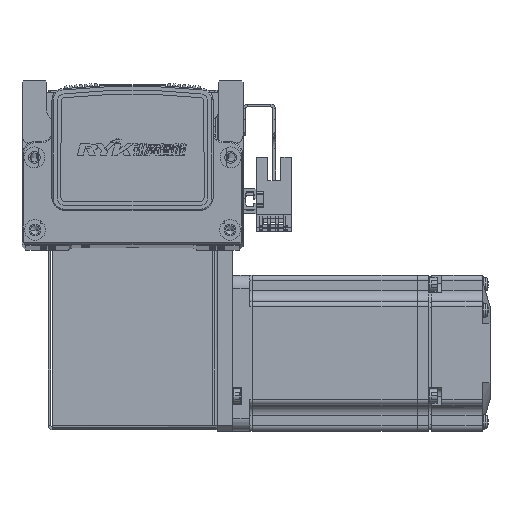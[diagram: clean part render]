
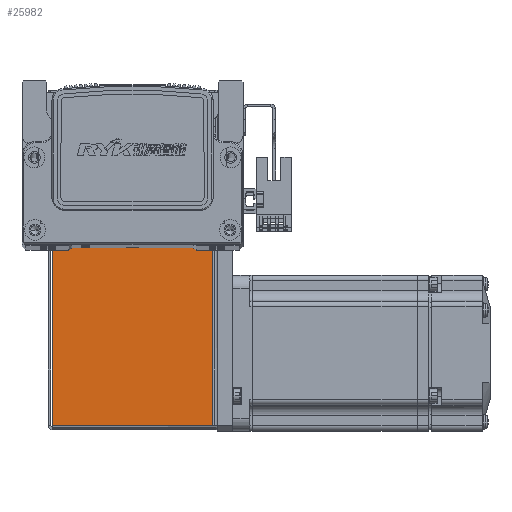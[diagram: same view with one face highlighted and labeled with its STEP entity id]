
A CAD part, top view. The second image highlights one B-rep face of the part: STEP entity #25982.
In plain terms, the highlighted planar face has unit normal (0, 0, 1).
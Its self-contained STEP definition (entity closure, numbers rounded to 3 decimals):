
#10081 = EDGE_LOOP ( 'NONE', ( #17099, #17057, #17058, #17068 ) ) ;
#17057 = ORIENTED_EDGE ( 'NONE', *, *, #67073, .T. ) ;
#17058 = ORIENTED_EDGE ( 'NONE', *, *, #67099, .F. ) ;
#17068 = ORIENTED_EDGE ( 'NONE', *, *, #67013, .F. ) ;
#17099 = ORIENTED_EDGE ( 'NONE', *, *, #67014, .T. ) ;
#21638 = PLANE ( 'NONE',  #62344 ) ;
#21641 = DIRECTION ( 'NONE',  ( 0., 0., -1. ) ) ;
#21677 = CARTESIAN_POINT ( 'NONE',  ( 0., 0., 35. ) ) ;
#21701 = DIRECTION ( 'NONE',  ( -1., 0., 0. ) ) ;
#25982 = ADVANCED_FACE ( 'NONE', ( #71941 ), #21638, .F. ) ;
#38791 = CARTESIAN_POINT ( 'NONE',  ( 30.763, 0.737, 35. ) ) ;
#38818 = CARTESIAN_POINT ( 'NONE',  ( 30.763, 72.5, 35. ) ) ;
#38847 = CARTESIAN_POINT ( 'NONE',  ( -30.793, 72.5, 35. ) ) ;
#38878 = CARTESIAN_POINT ( 'NONE',  ( -30.793, 0.737, 35. ) ) ;
#40036 = VERTEX_POINT ( 'NONE', #38818 ) ;
#40037 = VERTEX_POINT ( 'NONE', #38791 ) ;
#40080 = VERTEX_POINT ( 'NONE', #38878 ) ;
#40102 = VERTEX_POINT ( 'NONE', #38847 ) ;
#45302 = VECTOR ( 'NONE', #74833, 1000. ) ;
#45318 = LINE ( 'NONE', #74835, #45302 ) ;
#45324 = LINE ( 'NONE', #74808, #45326 ) ;
#45326 = VECTOR ( 'NONE', #74816, 1000. ) ;
#45544 = LINE ( 'NONE', #74943, #45602 ) ;
#45566 = LINE ( 'NONE', #75006, #45568 ) ;
#45568 = VECTOR ( 'NONE', #75007, 1000. ) ;
#45602 = VECTOR ( 'NONE', #74949, 1000. ) ;
#62344 = AXIS2_PLACEMENT_3D ( 'NONE', #21677, #21641, #21701 ) ;
#67013 = EDGE_CURVE ( 'NONE', #40037, #40080, #45324, .T. ) ;
#67014 = EDGE_CURVE ( 'NONE', #40037, #40036, #45318, .T. ) ;
#67073 = EDGE_CURVE ( 'NONE', #40036, #40102, #45544, .T. ) ;
#67099 = EDGE_CURVE ( 'NONE', #40080, #40102, #45566, .T. ) ;
#71941 = FACE_OUTER_BOUND ( 'NONE', #10081, .T. ) ;
#74808 = CARTESIAN_POINT ( 'NONE',  ( -32.5, 0.737, 35. ) ) ;
#74816 = DIRECTION ( 'NONE',  ( -1., 0., 0. ) ) ;
#74833 = DIRECTION ( 'NONE',  ( 0., 1., 0. ) ) ;
#74835 = CARTESIAN_POINT ( 'NONE',  ( 30.763, 0.737, 35. ) ) ;
#74943 = CARTESIAN_POINT ( 'NONE',  ( 0., 72.5, 35. ) ) ;
#74949 = DIRECTION ( 'NONE',  ( -1., 0., 0. ) ) ;
#75006 = CARTESIAN_POINT ( 'NONE',  ( -30.793, 0., 35. ) ) ;
#75007 = DIRECTION ( 'NONE',  ( 0., 1., 0. ) ) ;
